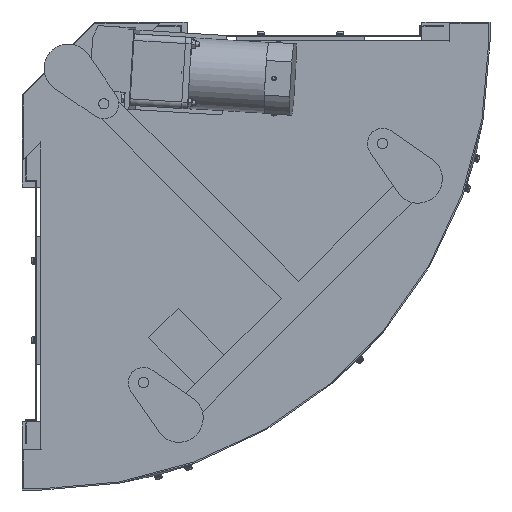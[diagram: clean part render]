
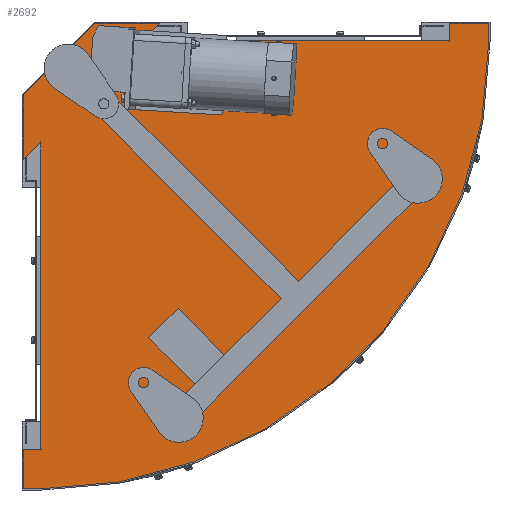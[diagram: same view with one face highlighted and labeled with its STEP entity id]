
A CAD part, front view. The second image highlights one B-rep face of the part: STEP entity #2692.
In plain terms, the highlighted planar face has unit normal (0, -1, 0).
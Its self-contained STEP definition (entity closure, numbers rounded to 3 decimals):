
#2692=ADVANCED_FACE('',(#13038),#13037,.F.);
#13037=PLANE('',#21414);
#13038=FACE_OUTER_BOUND('',#21415,.T.);
#21411=CARTESIAN_POINT('',(-33.4,-145.7,-571.5));
#21412=DIRECTION('',(0.,1.,0.));
#21413=DIRECTION('',(0.,0.,1.));
#21414=AXIS2_PLACEMENT_3D('',#21411,#21412,#21413);
#21415=EDGE_LOOP('',(#28421,#28422,#28423,#28424,#28425,#28426,#28427,#28428,#28429,#28430,#28431,#28432,#28433,#28434));
#28421=ORIENTED_EDGE('',*,*,#31561,.F.);
#28422=ORIENTED_EDGE('',*,*,#31545,.T.);
#28423=ORIENTED_EDGE('',*,*,#31563,.T.);
#28424=ORIENTED_EDGE('',*,*,#31564,.T.);
#28425=ORIENTED_EDGE('',*,*,#31565,.T.);
#28426=ORIENTED_EDGE('',*,*,#31549,.T.);
#28427=ORIENTED_EDGE('',*,*,#31559,.F.);
#28428=ORIENTED_EDGE('',*,*,#31566,.T.);
#28429=ORIENTED_EDGE('',*,*,#31567,.T.);
#28430=ORIENTED_EDGE('',*,*,#31568,.T.);
#28431=ORIENTED_EDGE('',*,*,#31569,.T.);
#28432=ORIENTED_EDGE('',*,*,#31570,.T.);
#28433=ORIENTED_EDGE('',*,*,#31571,.T.);
#28434=ORIENTED_EDGE('',*,*,#31572,.T.);
#31545=EDGE_CURVE('',#47195,#47188,#47196,.T.);
#31549=EDGE_CURVE('',#47168,#47216,#47223,.T.);
#31559=EDGE_CURVE('',#47277,#47216,#47290,.T.);
#31561=EDGE_CURVE('',#47195,#46840,#47302,.T.);
#31563=EDGE_CURVE('',#47188,#47314,#47315,.T.);
#31564=EDGE_CURVE('',#47314,#47321,#47322,.T.);
#31565=EDGE_CURVE('',#47321,#47168,#47328,.T.);
#31566=EDGE_CURVE('',#47277,#47334,#47335,.T.);
#31567=EDGE_CURVE('',#47334,#47341,#47342,.T.);
#31568=EDGE_CURVE('',#47341,#47348,#47349,.T.);
#31569=EDGE_CURVE('',#47348,#47355,#47356,.T.);
#31570=EDGE_CURVE('',#47355,#47362,#47363,.T.);
#31571=EDGE_CURVE('',#47362,#47369,#47370,.T.);
#31572=EDGE_CURVE('',#47369,#46840,#47376,.T.);
#46840=VERTEX_POINT('',#59632);
#47168=VERTEX_POINT('',#59839);
#47188=VERTEX_POINT('',#59850);
#47195=VERTEX_POINT('',#59854);
#47196=LINE('',#59855,#59856);
#47216=VERTEX_POINT('',#59866);
#47223=LINE('',#59870,#59871);
#47277=VERTEX_POINT('',#59901);
#47290=LINE('',#59909,#59910);
#47302=LINE('',#59915,#59916);
#47314=VERTEX_POINT('',#59921);
#47315=LINE('',#59922,#59923);
#47321=VERTEX_POINT('',#59925);
#47322=LINE('',#59926,#59927);
#47328=LINE('',#59929,#59930);
#47334=VERTEX_POINT('',#59932);
#47335=LINE('',#59933,#59934);
#47341=VERTEX_POINT('',#59936);
#47342=LINE('',#59937,#59938);
#47348=VERTEX_POINT('',#59940);
#47349=LINE('',#59941,#59942);
#47355=VERTEX_POINT('',#59944);
#47356=CIRCLE('',#59948,561.5);
#47362=VERTEX_POINT('',#59949);
#47363=LINE('',#59950,#59951);
#47369=VERTEX_POINT('',#59953);
#47370=LINE('',#59954,#59955);
#47376=LINE('',#59957,#59958);
#59632=CARTESIAN_POINT('',(512.5,-145.7,1.621));
#59839=CARTESIAN_POINT('',(-23.4,-145.7,-147.5));
#59850=CARTESIAN_POINT('',(147.5,-145.7,23.4));
#59854=CARTESIAN_POINT('',(125.775,-145.7,1.675));
#59855=CARTESIAN_POINT('',(125.775,-145.7,1.675));
#59856=VECTOR('',#59857,30.724);
#59857=DIRECTION('',(0.707,0.,0.707));
#59866=CARTESIAN_POINT('',(-1.675,-145.7,-125.775));
#59870=CARTESIAN_POINT('',(-23.4,-145.7,-147.5));
#59871=VECTOR('',#59872,30.724);
#59872=DIRECTION('',(0.707,0.,0.707));
#59901=CARTESIAN_POINT('',(-1.621,-145.7,-512.5));
#59909=CARTESIAN_POINT('',(-1.621,-145.7,-512.497));
#59910=VECTOR('',#59911,386.723);
#59911=DIRECTION('',(0.,0.,1.));
#59915=CARTESIAN_POINT('',(125.775,-145.7,1.675));
#59916=VECTOR('',#59917,386.723);
#59917=DIRECTION('',(1.,0.,0.));
#59921=CARTESIAN_POINT('',(66.663,-145.7,23.4));
#59922=CARTESIAN_POINT('',(147.5,-145.7,23.4));
#59923=VECTOR('',#59924,80.837);
#59924=DIRECTION('',(-1.,0.,0.));
#59925=CARTESIAN_POINT('',(-23.4,-145.7,-66.663));
#59926=CARTESIAN_POINT('',(66.663,-145.7,23.4));
#59927=VECTOR('',#59928,127.368);
#59928=DIRECTION('',(-0.707,0.,-0.707));
#59929=CARTESIAN_POINT('',(-23.4,-145.7,-66.663));
#59930=VECTOR('',#59931,80.837);
#59931=DIRECTION('',(0.,0.,-1.));
#59932=CARTESIAN_POINT('',(-23.4,-145.7,-512.5));
#59933=CARTESIAN_POINT('',(-1.621,-145.7,-512.5));
#59934=VECTOR('',#59935,21.779);
#59935=DIRECTION('',(-1.,0.,0.));
#59936=CARTESIAN_POINT('',(-23.4,-145.7,-561.5));
#59937=CARTESIAN_POINT('',(-23.4,-145.7,-512.5));
#59938=VECTOR('',#59939,49.);
#59939=DIRECTION('',(0.,0.,-1.));
#59940=CARTESIAN_POINT('',(0.,-145.7,-561.5));
#59941=CARTESIAN_POINT('',(-23.4,-145.7,-561.5));
#59942=VECTOR('',#59943,23.4);
#59943=DIRECTION('',(1.,0.,0.));
#59944=CARTESIAN_POINT('',(561.5,-145.7,0.));
#59945=CARTESIAN_POINT('',(0.,-145.7,0.));
#59946=DIRECTION('',(0.,-1.,0.));
#59947=DIRECTION('',(0.,0.,-1.));
#59948=AXIS2_PLACEMENT_3D('',#59945,#59946,#59947);
#59949=CARTESIAN_POINT('',(561.5,-145.7,23.4));
#59950=CARTESIAN_POINT('',(561.5,-145.7,0.));
#59951=VECTOR('',#59952,23.4);
#59952=DIRECTION('',(0.,0.,1.));
#59953=CARTESIAN_POINT('',(512.5,-145.7,23.4));
#59954=CARTESIAN_POINT('',(561.5,-145.7,23.4));
#59955=VECTOR('',#59956,49.);
#59956=DIRECTION('',(-1.,0.,0.));
#59957=CARTESIAN_POINT('',(512.5,-145.7,23.4));
#59958=VECTOR('',#59959,21.779);
#59959=DIRECTION('',(0.,0.,-1.));
